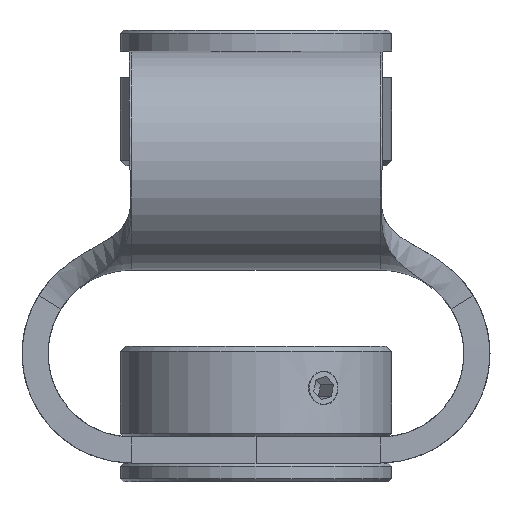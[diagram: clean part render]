
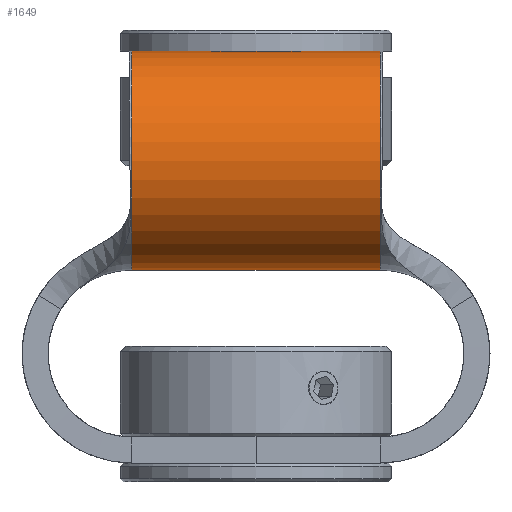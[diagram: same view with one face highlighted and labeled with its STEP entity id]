
A CAD part, front view. The second image highlights one B-rep face of the part: STEP entity #1649.
In plain terms, the highlighted cylindrical face has radius 10.5 mm (diameter 21 mm), a partial arc.
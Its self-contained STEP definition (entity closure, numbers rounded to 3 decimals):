
#161=CYLINDRICAL_SURFACE('',#1804,10.5);
#214=FACE_OUTER_BOUND('',#332,.T.);
#332=EDGE_LOOP('',(#1221,#1222,#1223,#1224));
#485=CIRCLE('',#1768,10.5);
#508=CIRCLE('',#1805,10.5);
#618=LINE('',#2715,#712);
#619=LINE('',#2718,#713);
#712=VECTOR('',#2127,23.867);
#713=VECTOR('',#2130,23.867);
#784=VERTEX_POINT('',#2577);
#785=VERTEX_POINT('',#2582);
#818=VERTEX_POINT('',#2714);
#819=VERTEX_POINT('',#2716);
#928=EDGE_CURVE('',#785,#784,#485,.T.);
#979=EDGE_CURVE('',#818,#784,#618,.T.);
#980=EDGE_CURVE('',#818,#819,#508,.T.);
#981=EDGE_CURVE('',#785,#819,#619,.T.);
#1221=ORIENTED_EDGE('',*,*,#928,.T.);
#1222=ORIENTED_EDGE('',*,*,#979,.F.);
#1223=ORIENTED_EDGE('',*,*,#980,.T.);
#1224=ORIENTED_EDGE('',*,*,#981,.F.);
#1649=ADVANCED_FACE('',(#214),#161,.T.);
#1768=AXIS2_PLACEMENT_3D('',#2583,#2028,#2029);
#1804=AXIS2_PLACEMENT_3D('',#2713,#2125,#2126);
#1805=AXIS2_PLACEMENT_3D('',#2717,#2128,#2129);
#2028=DIRECTION('center_axis',(1.,0.,0.));
#2029=DIRECTION('ref_axis',(0.,-1.,0.));
#2125=DIRECTION('center_axis',(-1.,0.,0.));
#2126=DIRECTION('ref_axis',(0.,-1.,0.));
#2127=DIRECTION('',(-1.,0.,0.));
#2128=DIRECTION('center_axis',(-1.,0.,0.));
#2129=DIRECTION('ref_axis',(0.,-1.,0.));
#2130=DIRECTION('',(1.,0.,0.));
#2577=CARTESIAN_POINT('',(35.5,-16.867,0.));
#2582=CARTESIAN_POINT('',(35.5,-16.867,21.));
#2583=CARTESIAN_POINT('Origin',(35.5,-16.867,10.5));
#2713=CARTESIAN_POINT('Origin',(47.434,-16.867,10.5));
#2714=CARTESIAN_POINT('',(59.367,-16.867,0.));
#2715=CARTESIAN_POINT('',(41.934,-16.867,0.));
#2716=CARTESIAN_POINT('',(59.367,-16.867,21.));
#2717=CARTESIAN_POINT('Origin',(59.367,-16.867,10.5));
#2718=CARTESIAN_POINT('',(41.934,-16.867,21.));
